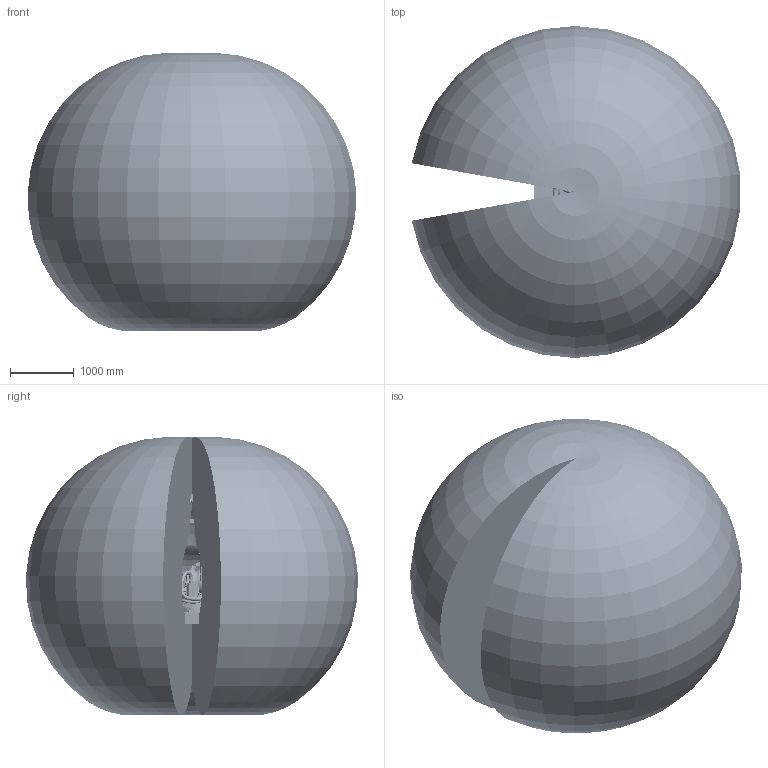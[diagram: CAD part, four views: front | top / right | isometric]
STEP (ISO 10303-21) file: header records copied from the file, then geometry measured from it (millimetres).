
FILE_DESCRIPTION (( 'STEP AP214' ), '1' );
FILE_NAME ('IRB5720-LID-SW_155kg-260_OC_03_ASM.step', '2025-07-08T11:04:28', ( '' ), ( '' ), 'SwSTEP 2.0', 'SolidWorks 2024', '' );
FILE_SCHEMA (( 'AUTOMOTIVE_DESIGN' ));
Length unit declared in the file: millimetre
Products named in the file (18): IRB5720-LID-SW_90kg-300_OC_02_LINK03b_CABLE; IRB5720-LID_155kg-260_OmniCore_rev00_Working-space; IRB5720-LID_155kg-260_OmniCore_rev00_LINK01_CAD; IRB5720-LID_155kg-260_OmniCore_rev01_LINK03_CAD; IRB5720-LID_155kg-260_OmniCore_rev00_LINK01m_CABLE; IRB5720-LID_155kg-260_OmniCore_rev00_LINK02m_CABLE; IRB5720-LID_155kg-260_OmniCore_rev00_LINK05_CAD; IRB5720-LID-SW_155kg-260_OC_01_LINK02_CABLE; IRB5720-LID_155kg-260_OmniCore_rev00_LINK02_CAD; IRB5720-LID-SW_155kg-260_OC_01_LINK03a_CABLE; IRB5720-LID_155kg-260_OmniCore_rev00_LINK06_CABLE; IRB5720-LID_155kg-260_OmniCore_rev00_LINK03m_CABLE; IRB5720-LID_155kg-260_OmniCore_rev00_LINK04_CABLE; IRB5720-LID-SW_155kg-260_OC_01_LINK01_CABLE; IRB5720-LID_155kg-260_OmniCore_rev00_LINK04_CAD; IRB5720-LID-SW_155kg-260_OC_03_ASM; IRB5720-LID_155kg-260_OmniCore_rev00_LINK05_CABLE; IRB5720-LID_155kg-260_OC_01_BASE_CAD
Assembly tree (17 placements, depth 2):
  IRB5720-LID-SW_155kg-260_OC_03_ASM
    IRB5720-LID_155kg-260_OC_01_BASE_CAD
    IRB5720-LID_155kg-260_OmniCore_rev00_LINK01_CAD
    IRB5720-LID_155kg-260_OmniCore_rev00_LINK02_CAD
    IRB5720-LID_155kg-260_OmniCore_rev01_LINK03_CAD
    IRB5720-LID_155kg-260_OmniCore_rev00_LINK04_CAD
    IRB5720-LID_155kg-260_OmniCore_rev00_LINK05_CAD
    IRB5720-LID_155kg-260_OmniCore_rev00_LINK01m_CABLE
    IRB5720-LID_155kg-260_OmniCore_rev00_LINK02m_CABLE
    IRB5720-LID_155kg-260_OmniCore_rev00_LINK03m_CABLE
    IRB5720-LID-SW_155kg-260_OC_01_LINK01_CABLE
    IRB5720-LID-SW_155kg-260_OC_01_LINK02_CABLE
    IRB5720-LID-SW_155kg-260_OC_01_LINK03a_CABLE
    IRB5720-LID_155kg-260_OmniCore_rev00_LINK04_CABLE
    IRB5720-LID_155kg-260_OmniCore_rev00_LINK05_CABLE
    IRB5720-LID_155kg-260_OmniCore_rev00_LINK06_CABLE
    IRB5720-LID_155kg-260_OmniCore_rev00_Working-space
    IRB5720-LID-SW_90kg-300_OC_02_LINK03b_CABLE
Bounding box: 5142.1 x 5195.79 x 4356.06 mm (x, y, z)
Volume: 61010584559.2 mm3; surface area: 113709248.6 mm2
Topology: 26 solids, 75 shells, 8643 faces, 21821 edges, 13966 vertices
Faces by surface type: plane 4148, cylinder 2397, cone 964, bspline 852, torus 218, sphere 64
Entity records: 417039 total; most frequent: CARTESIAN_POINT 173094, ORIENTED_EDGE 43292, DIRECTION 38874, EDGE_CURVE 21646, AXIS2_PLACEMENT_3D 14117, VERTEX_POINT 13967, VECTOR 10640, LINE 10640
